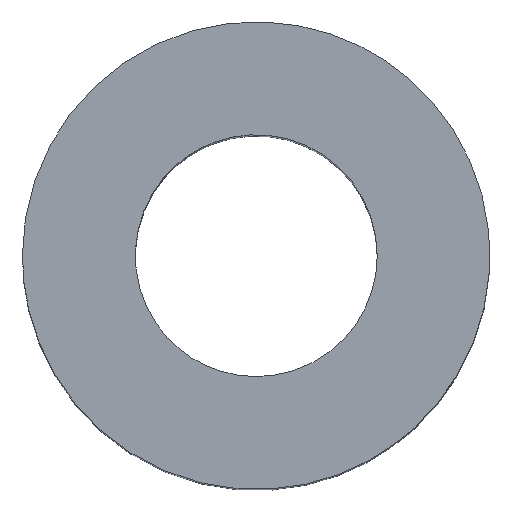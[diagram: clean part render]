
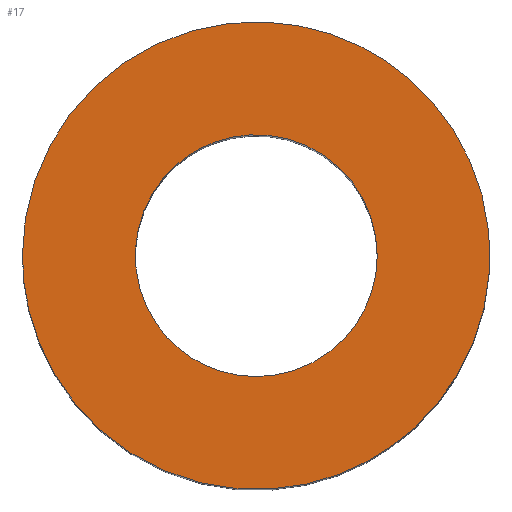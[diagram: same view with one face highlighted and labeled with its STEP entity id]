
A CAD part, top view. The second image highlights one B-rep face of the part: STEP entity #17.
In plain terms, the highlighted free-form (B-spline) face has degree [1, 1] with [2, 2] control points.
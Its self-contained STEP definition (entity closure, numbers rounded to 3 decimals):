
#17 = ADVANCED_FACE('',(#18,#32),#46,.F.);
#18 = FACE_BOUND('',#19,.T.);
#19 = EDGE_LOOP('',(#20));
#20 = ORIENTED_EDGE('',*,*,#21,.F.);
#21 = EDGE_CURVE('',#22,#22,#24,.T.);
#22 = VERTEX_POINT('',#23);
#23 = CARTESIAN_POINT('',(1.125,0.,6.));
#24 = ( BOUNDED_CURVE() B_SPLINE_CURVE(2,(#25,#26,#27,#28,#29,#30,#31),
.UNSPECIFIED.,.T.,.F.) B_SPLINE_CURVE_WITH_KNOTS((1,2,2,2,2,1),(
    -2.094,0.,2.094,4.189,6.283,
8.378),.UNSPECIFIED.) CURVE() GEOMETRIC_REPRESENTATION_ITEM() 
RATIONAL_B_SPLINE_CURVE((1.,0.5,1.,0.5,1.,0.5,1.)) REPRESENTATION_ITEM(
  '') );
#25 = CARTESIAN_POINT('',(1.125,0.,6.));
#26 = CARTESIAN_POINT('',(1.125,1.949,6.));
#27 = CARTESIAN_POINT('',(-0.563,0.974,6.));
#28 = CARTESIAN_POINT('',(-2.25,0.,6.));
#29 = CARTESIAN_POINT('',(-0.563,-0.974,6.));
#30 = CARTESIAN_POINT('',(1.125,-1.949,6.));
#31 = CARTESIAN_POINT('',(1.125,0.,6.));
#32 = FACE_BOUND('',#33,.T.);
#33 = EDGE_LOOP('',(#34));
#34 = ORIENTED_EDGE('',*,*,#35,.F.);
#35 = EDGE_CURVE('',#36,#36,#38,.T.);
#36 = VERTEX_POINT('',#37);
#37 = CARTESIAN_POINT('',(-2.175,0.,6.));
#38 = ( BOUNDED_CURVE() B_SPLINE_CURVE(2,(#39,#40,#41,#42,#43,#44,#45),
.UNSPECIFIED.,.T.,.F.) B_SPLINE_CURVE_WITH_KNOTS((1,2,2,2,2,1),(
    -2.094,0.,2.094,4.189,6.283,
8.378),.UNSPECIFIED.) CURVE() GEOMETRIC_REPRESENTATION_ITEM() 
RATIONAL_B_SPLINE_CURVE((1.,0.5,1.,0.5,1.,0.5,1.)) REPRESENTATION_ITEM(
  '') );
#39 = CARTESIAN_POINT('',(-2.175,0.,6.));
#40 = CARTESIAN_POINT('',(-2.175,3.767,6.));
#41 = CARTESIAN_POINT('',(1.088,1.884,6.));
#42 = CARTESIAN_POINT('',(4.35,0.,6.));
#43 = CARTESIAN_POINT('',(1.088,-1.884,6.));
#44 = CARTESIAN_POINT('',(-2.175,-3.767,6.));
#45 = CARTESIAN_POINT('',(-2.175,0.,6.));
#46 = B_SPLINE_SURFACE_WITH_KNOTS('',1,1,(
    (#47,#48)
    ,(#49,#50
    )),.UNSPECIFIED.,.F.,.F.,.F.,(2,2),(2,2),(-2.175,2.175),(-2.175,
    2.175),.PIECEWISE_BEZIER_KNOTS.);
#47 = CARTESIAN_POINT('',(2.175,-2.175,6.));
#48 = CARTESIAN_POINT('',(2.175,2.175,6.));
#49 = CARTESIAN_POINT('',(-2.175,-2.175,6.));
#50 = CARTESIAN_POINT('',(-2.175,2.175,6.));
